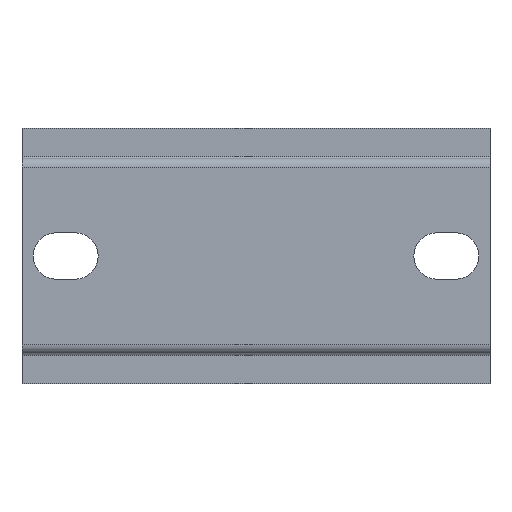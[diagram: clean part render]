
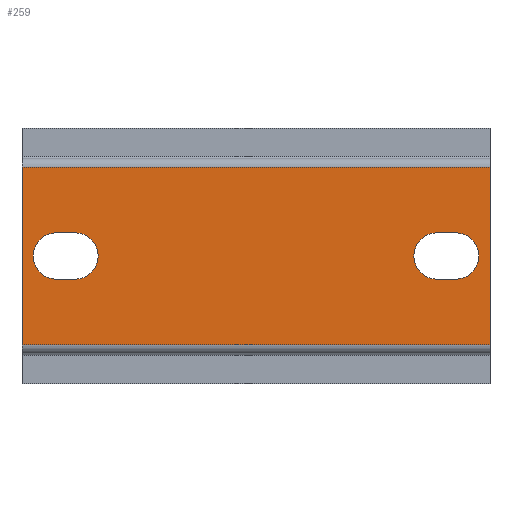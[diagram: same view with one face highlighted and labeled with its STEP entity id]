
A CAD part, front view. The second image highlights one B-rep face of the part: STEP entity #259.
In plain terms, the highlighted planar face has unit normal (0, -1, 0).
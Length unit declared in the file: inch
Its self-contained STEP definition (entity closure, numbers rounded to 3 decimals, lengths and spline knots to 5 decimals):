
#122 = DIRECTION ( 'NONE',  ( 0., 0., -1. ) ) ;
#123 = VECTOR ( 'NONE', #122, 39.37008 ) ;
#124 = CARTESIAN_POINT ( 'NONE',  ( -1.26, 0., -0.5265 ) ) ;
#129 = LINE ( 'NONE', #124, #123 ) ;
#250 = VERTEX_POINT ( 'NONE', #591 ) ;
#256 = ORIENTED_EDGE ( 'NONE', *, *, #257, .T. ) ;
#257 = EDGE_CURVE ( 'NONE', #260, #250, #620, .T. ) ;
#259 = ADVANCED_FACE ( 'NONE', ( #615, #614, #613 ), #612, .F. ) ;
#260 = VERTEX_POINT ( 'NONE', #611 ) ;
#262 = ORIENTED_EDGE ( 'NONE', *, *, #275, .T. ) ;
#264 = VERTEX_POINT ( 'NONE', #606 ) ;
#266 = EDGE_LOOP ( 'NONE', ( #256, #267, #281, #262 ) ) ;
#267 = ORIENTED_EDGE ( 'NONE', *, *, #273, .T. ) ;
#268 = EDGE_LOOP ( 'NONE', ( #270, #286, #285, #287 ) ) ;
#269 = VERTEX_POINT ( 'NONE', #663 ) ;
#270 = ORIENTED_EDGE ( 'NONE', *, *, #278, .T. ) ;
#272 = EDGE_CURVE ( 'NONE', #269, #264, #662, .T. ) ;
#273 = EDGE_CURVE ( 'NONE', #250, #269, #680, .T. ) ;
#275 = EDGE_CURVE ( 'NONE', #264, #260, #674, .T. ) ;
#277 = EDGE_CURVE ( 'NONE', #280, #279, #670, .T. ) ;
#278 = EDGE_CURVE ( 'NONE', #283, #280, #730, .T. ) ;
#279 = VERTEX_POINT ( 'NONE', #726 ) ;
#280 = VERTEX_POINT ( 'NONE', #725 ) ;
#281 = ORIENTED_EDGE ( 'NONE', *, *, #272, .T. ) ;
#282 = EDGE_LOOP ( 'NONE', ( #288, #650, #637, #659 ) ) ;
#283 = VERTEX_POINT ( 'NONE', #724 ) ;
#284 = EDGE_CURVE ( 'NONE', #291, #283, #723, .T. ) ;
#285 = ORIENTED_EDGE ( 'NONE', *, *, #290, .T. ) ;
#286 = ORIENTED_EDGE ( 'NONE', *, *, #277, .T. ) ;
#287 = ORIENTED_EDGE ( 'NONE', *, *, #284, .T. ) ;
#288 = ORIENTED_EDGE ( 'NONE', *, *, #295, .F. ) ;
#290 = EDGE_CURVE ( 'NONE', #279, #291, #686, .T. ) ;
#291 = VERTEX_POINT ( 'NONE', #546 ) ;
#292 = VERTEX_POINT ( 'NONE', #545 ) ;
#293 = VERTEX_POINT ( 'NONE', #544 ) ;
#294 = EDGE_CURVE ( 'NONE', #296, #297, #543, .T. ) ;
#295 = EDGE_CURVE ( 'NONE', #296, #292, #539, .T. ) ;
#296 = VERTEX_POINT ( 'NONE', #535 ) ;
#297 = VERTEX_POINT ( 'NONE', #534 ) ;
#534 = CARTESIAN_POINT ( 'NONE',  ( -1.26, 0., 0.4775 ) ) ;
#535 = CARTESIAN_POINT ( 'NONE',  ( 1.26, 0., 0.4775 ) ) ;
#536 = DIRECTION ( 'NONE',  ( 0., 0., -1. ) ) ;
#537 = VECTOR ( 'NONE', #536, 39.37008 ) ;
#538 = CARTESIAN_POINT ( 'NONE',  ( 1.26, 0., -0.5265 ) ) ;
#539 = LINE ( 'NONE', #538, #537 ) ;
#540 = DIRECTION ( 'NONE',  ( -1., 0., 0. ) ) ;
#541 = VECTOR ( 'NONE', #540, 39.37008 ) ;
#542 = CARTESIAN_POINT ( 'NONE',  ( 1.26, 0., 0.4775 ) ) ;
#543 = LINE ( 'NONE', #542, #541 ) ;
#544 = CARTESIAN_POINT ( 'NONE',  ( -1.26, 0., -0.4775 ) ) ;
#545 = CARTESIAN_POINT ( 'NONE',  ( 1.26, 0., -0.4775 ) ) ;
#546 = CARTESIAN_POINT ( 'NONE',  ( -0.975, 0., 0.125 ) ) ;
#567 = EDGE_CURVE ( 'NONE', #293, #292, #1040, .T. ) ;
#591 = CARTESIAN_POINT ( 'NONE',  ( 1.075, 0., 0.125 ) ) ;
#606 = CARTESIAN_POINT ( 'NONE',  ( 0.975, 0., -0.125 ) ) ;
#607 = DIRECTION ( 'NONE',  ( 0., 0., 1. ) ) ;
#608 = DIRECTION ( 'NONE',  ( 0., 1., 0. ) ) ;
#609 = CARTESIAN_POINT ( 'NONE',  ( 1.26, 0., -0.5265 ) ) ;
#610 = AXIS2_PLACEMENT_3D ( 'NONE', #609, #608, #607 ) ;
#611 = CARTESIAN_POINT ( 'NONE',  ( 0.975, 0., 0.125 ) ) ;
#612 = PLANE ( 'NONE',  #610 ) ;
#613 = FACE_OUTER_BOUND ( 'NONE', #282, .T. ) ;
#614 = FACE_BOUND ( 'NONE', #268, .T. ) ;
#615 = FACE_BOUND ( 'NONE', #266, .T. ) ;
#617 = DIRECTION ( 'NONE',  ( 1., 0., 0. ) ) ;
#618 = VECTOR ( 'NONE', #617, 39.37008 ) ;
#619 = CARTESIAN_POINT ( 'NONE',  ( 0.975, 0., 0.125 ) ) ;
#620 = LINE ( 'NONE', #619, #618 ) ;
#637 = ORIENTED_EDGE ( 'NONE', *, *, #704, .T. ) ;
#650 = ORIENTED_EDGE ( 'NONE', *, *, #294, .T. ) ;
#659 = ORIENTED_EDGE ( 'NONE', *, *, #567, .T. ) ;
#660 = VECTOR ( 'NONE', #682, 39.37008 ) ;
#661 = CARTESIAN_POINT ( 'NONE',  ( 1.075, 0., -0.125 ) ) ;
#662 = LINE ( 'NONE', #661, #660 ) ;
#663 = CARTESIAN_POINT ( 'NONE',  ( 1.075, 0., -0.125 ) ) ;
#668 = DIRECTION ( 'NONE',  ( 0., 1., 0. ) ) ;
#669 = AXIS2_PLACEMENT_3D ( 'NONE', #675, #668, #731 ) ;
#670 = CIRCLE ( 'NONE', #669, 0.125 ) ;
#671 = DIRECTION ( 'NONE',  ( 0., 0., 1. ) ) ;
#672 = DIRECTION ( 'NONE',  ( 0., 1., 0. ) ) ;
#673 = AXIS2_PLACEMENT_3D ( 'NONE', #681, #672, #671 ) ;
#674 = CIRCLE ( 'NONE', #673, 0.125 ) ;
#675 = CARTESIAN_POINT ( 'NONE',  ( -1.075, 0., 0. ) ) ;
#676 = DIRECTION ( 'NONE',  ( 0., 0., 1. ) ) ;
#677 = DIRECTION ( 'NONE',  ( 0., 1., 0. ) ) ;
#678 = CARTESIAN_POINT ( 'NONE',  ( 1.075, 0., 0. ) ) ;
#679 = AXIS2_PLACEMENT_3D ( 'NONE', #678, #677, #676 ) ;
#680 = CIRCLE ( 'NONE', #679, 0.125 ) ;
#681 = CARTESIAN_POINT ( 'NONE',  ( 0.975, 0., 0. ) ) ;
#682 = DIRECTION ( 'NONE',  ( -1., 0., 0. ) ) ;
#683 = DIRECTION ( 'NONE',  ( 1., 0., 0. ) ) ;
#684 = VECTOR ( 'NONE', #683, 39.37008 ) ;
#685 = CARTESIAN_POINT ( 'NONE',  ( -0.975, 0., 0.125 ) ) ;
#686 = LINE ( 'NONE', #685, #684 ) ;
#688 = DIRECTION ( 'NONE',  ( 0., 0., -1. ) ) ;
#689 = DIRECTION ( 'NONE',  ( 0., 1., 0. ) ) ;
#690 = CARTESIAN_POINT ( 'NONE',  ( -0.975, 0., 0. ) ) ;
#691 = AXIS2_PLACEMENT_3D ( 'NONE', #690, #689, #688 ) ;
#704 = EDGE_CURVE ( 'NONE', #297, #293, #129, .T. ) ;
#723 = CIRCLE ( 'NONE', #691, 0.125 ) ;
#724 = CARTESIAN_POINT ( 'NONE',  ( -0.975, 0., -0.125 ) ) ;
#725 = CARTESIAN_POINT ( 'NONE',  ( -1.075, 0., -0.125 ) ) ;
#726 = CARTESIAN_POINT ( 'NONE',  ( -1.075, 0., 0.125 ) ) ;
#727 = DIRECTION ( 'NONE',  ( -1., 0., 0. ) ) ;
#728 = VECTOR ( 'NONE', #727, 39.37008 ) ;
#729 = CARTESIAN_POINT ( 'NONE',  ( -1.075, 0., -0.125 ) ) ;
#730 = LINE ( 'NONE', #729, #728 ) ;
#731 = DIRECTION ( 'NONE',  ( 0., 0., -1. ) ) ;
#1040 = LINE ( 'NONE', #1061, #1060 ) ;
#1059 = DIRECTION ( 'NONE',  ( 1., 0., 0. ) ) ;
#1060 = VECTOR ( 'NONE', #1059, 39.37008 ) ;
#1061 = CARTESIAN_POINT ( 'NONE',  ( 1.26, 0., -0.4775 ) ) ;
